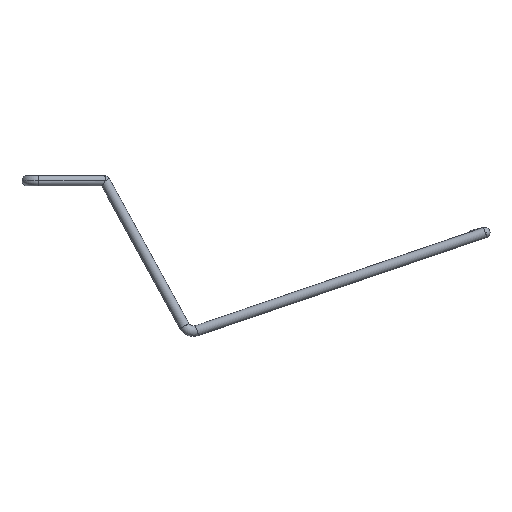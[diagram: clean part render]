
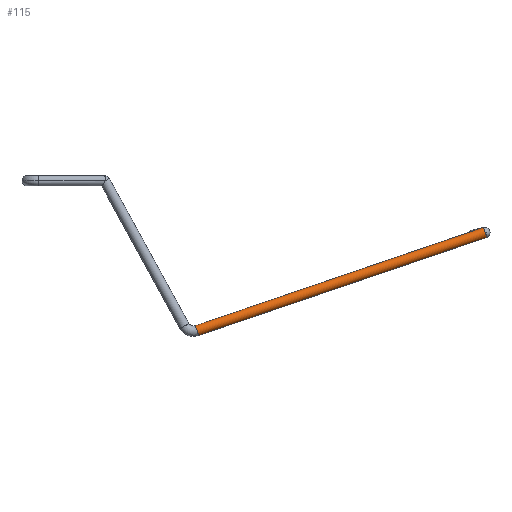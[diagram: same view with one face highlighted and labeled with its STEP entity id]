
A CAD part, left-side view. The second image highlights one B-rep face of the part: STEP entity #115.
In plain terms, the highlighted cylindrical face has radius 0.4 mm (diameter 0.8 mm), a partial arc.
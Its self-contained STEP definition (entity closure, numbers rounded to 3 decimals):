
#3 = CARTESIAN_POINT ( 'NONE',  ( -10.915, -37.06, -3.621 ) ) ;
#65 = DIRECTION ( 'NONE',  ( -0.083, 0.943, -0.321 ) ) ;
#80 = DIRECTION ( 'NONE',  ( 0.083, -0.943, 0.321 ) ) ;
#98 = VECTOR ( 'NONE', #80, 1000. ) ;
#115 = ADVANCED_FACE ( 'NONE', ( #229 ), #1153, .T. ) ;
#131 = ORIENTED_EDGE ( 'NONE', *, *, #1113, .T. ) ;
#146 = CARTESIAN_POINT ( 'NONE',  ( -10.915, -37.06, -3.621 ) ) ;
#173 = EDGE_CURVE ( 'NONE', #351, #583, #838, .T. ) ;
#177 = DIRECTION ( 'NONE',  ( -0.083, 0.943, -0.321 ) ) ;
#188 = EDGE_CURVE ( 'NONE', #583, #841, #358, .T. ) ;
#210 = DIRECTION ( 'NONE',  ( -0.083, 0.943, -0.321 ) ) ;
#229 = FACE_OUTER_BOUND ( 'NONE', #291, .T. ) ;
#282 = AXIS2_PLACEMENT_3D ( 'NONE', #1095, #177, #935 ) ;
#288 = CARTESIAN_POINT ( 'NONE',  ( -10.912, -37.055, -3.623 ) ) ;
#291 = EDGE_LOOP ( 'NONE', ( #524, #979, #826, #447, #477, #131 ) ) ;
#323 =( BOUNDED_CURVE ( )  B_SPLINE_CURVE ( 3, ( #3, #288, #1040, #932 ),
 .UNSPECIFIED., .F., .F. ) 
 B_SPLINE_CURVE_WITH_KNOTS ( ( 4, 4 ),
 ( 1.571, 1.599 ),
 .UNSPECIFIED. ) 
 CURVE ( )  GEOMETRIC_REPRESENTATION_ITEM ( )  RATIONAL_B_SPLINE_CURVE ( ( 1., 1., 1., 1. ) ) 
 REPRESENTATION_ITEM ( '' )  );
#351 = VERTEX_POINT ( 'NONE', #387 ) ;
#358 = CIRCLE ( 'NONE', #282, 0.4 ) ;
#387 = CARTESIAN_POINT ( 'NONE',  ( -12.853, -15.036, -11.964 ) ) ;
#391 = CARTESIAN_POINT ( 'NONE',  ( -12.864, -14.779, -11.206 ) ) ;
#447 = ORIENTED_EDGE ( 'NONE', *, *, #173, .T. ) ;
#449 = CARTESIAN_POINT ( 'NONE',  ( -12.853, -15.036, -11.964 ) ) ;
#477 = ORIENTED_EDGE ( 'NONE', *, *, #188, .T. ) ;
#488 = CARTESIAN_POINT ( 'NONE',  ( -12.853, -14.907, -11.585 ) ) ;
#501 = AXIS2_PLACEMENT_3D ( 'NONE', #538, #65, #760 ) ;
#524 = ORIENTED_EDGE ( 'NONE', *, *, #1208, .F. ) ;
#538 = CARTESIAN_POINT ( 'NONE',  ( -12.853, -14.907, -11.585 ) ) ;
#582 = DIRECTION ( 'NONE',  ( 0.104, -0.312, -0.944 ) ) ;
#583 = VERTEX_POINT ( 'NONE', #1189 ) ;
#596 = CIRCLE ( 'NONE', #755, 0.4 ) ;
#674 = CARTESIAN_POINT ( 'NONE',  ( -12.853, -14.907, -11.585 ) ) ;
#700 = EDGE_CURVE ( 'NONE', #351, #790, #817, .T. ) ;
#741 = VERTEX_POINT ( 'NONE', #749 ) ;
#749 = CARTESIAN_POINT ( 'NONE',  ( -10.905, -37.046, -3.626 ) ) ;
#755 = AXIS2_PLACEMENT_3D ( 'NONE', #674, #210, #582 ) ;
#760 = DIRECTION ( 'NONE',  ( 0.104, -0.312, -0.944 ) ) ;
#783 = AXIS2_PLACEMENT_3D ( 'NONE', #488, #866, #1140 ) ;
#790 = VERTEX_POINT ( 'NONE', #391 ) ;
#817 = CIRCLE ( 'NONE', #501, 0.4 ) ;
#826 = ORIENTED_EDGE ( 'NONE', *, *, #700, .F. ) ;
#838 = LINE ( 'NONE', #449, #1123 ) ;
#841 = VERTEX_POINT ( 'NONE', #146 ) ;
#866 = DIRECTION ( 'NONE',  ( 0.083, -0.943, 0.321 ) ) ;
#932 = CARTESIAN_POINT ( 'NONE',  ( -10.905, -37.046, -3.626 ) ) ;
#935 = DIRECTION ( 'NONE',  ( 0.104, -0.312, -0.944 ) ) ;
#978 = CARTESIAN_POINT ( 'NONE',  ( -12.853, -14.778, -11.206 ) ) ;
#979 = ORIENTED_EDGE ( 'NONE', *, *, #1158, .F. ) ;
#1040 = CARTESIAN_POINT ( 'NONE',  ( -10.908, -37.051, -3.624 ) ) ;
#1041 = VERTEX_POINT ( 'NONE', #1177 ) ;
#1070 = LINE ( 'NONE', #978, #98 ) ;
#1095 = CARTESIAN_POINT ( 'NONE',  ( -10.904, -37.188, -4. ) ) ;
#1100 = DIRECTION ( 'NONE',  ( 0.083, -0.943, 0.321 ) ) ;
#1113 = EDGE_CURVE ( 'NONE', #841, #741, #323, .T. ) ;
#1123 = VECTOR ( 'NONE', #1100, 1000. ) ;
#1140 = DIRECTION ( 'NONE',  ( 0., -0.322, -0.947 ) ) ;
#1153 = CYLINDRICAL_SURFACE ( 'NONE', #783, 0.4 ) ;
#1158 = EDGE_CURVE ( 'NONE', #790, #1041, #596, .T. ) ;
#1177 = CARTESIAN_POINT ( 'NONE',  ( -12.853, -14.778, -11.206 ) ) ;
#1189 = CARTESIAN_POINT ( 'NONE',  ( -10.904, -37.317, -4.379 ) ) ;
#1208 = EDGE_CURVE ( 'NONE', #1041, #741, #1070, .T. ) ;
